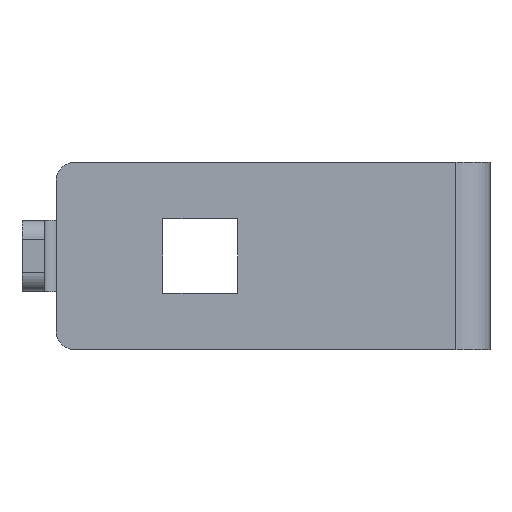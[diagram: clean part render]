
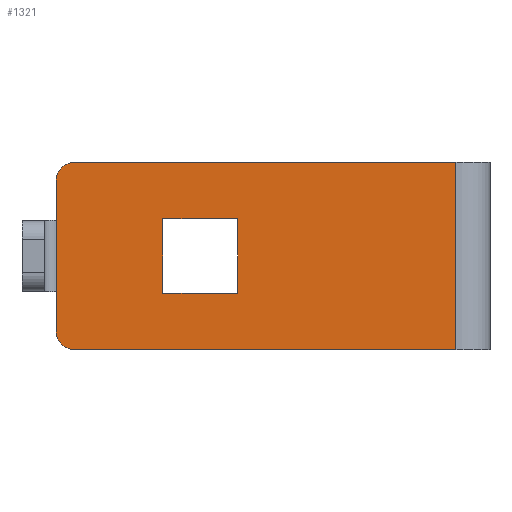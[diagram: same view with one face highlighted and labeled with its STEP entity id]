
A CAD part, left-side view. The second image highlights one B-rep face of the part: STEP entity #1321.
In plain terms, the highlighted planar face has unit normal (-1, 0, 0).
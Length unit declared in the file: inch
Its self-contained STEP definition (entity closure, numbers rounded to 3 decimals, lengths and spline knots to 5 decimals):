
#415=DIRECTION('',(0.,1.,0.));
#416=VECTOR('',#415,1.018);
#417=CARTESIAN_POINT('',(-0.8,-0.139,0.25));
#418=LINE('',#417,#416);
#419=DIRECTION('',(0.,0.,-1.));
#420=VECTOR('',#419,0.2);
#421=CARTESIAN_POINT('',(-0.8,0.644,0.1));
#422=LINE('',#421,#420);
#423=DIRECTION('',(0.,-1.,0.));
#424=VECTOR('',#423,0.2);
#425=CARTESIAN_POINT('',(-0.8,0.644,-0.1));
#426=LINE('',#425,#424);
#427=DIRECTION('',(0.,0.,1.));
#428=VECTOR('',#427,0.2);
#429=CARTESIAN_POINT('',(-0.8,0.444,-0.1));
#430=LINE('',#429,#428);
#431=DIRECTION('',(0.,1.,0.));
#432=VECTOR('',#431,0.2);
#433=CARTESIAN_POINT('',(-0.8,0.444,0.1));
#434=LINE('',#433,#432);
#435=CARTESIAN_POINT('',(-0.8,0.879,-0.2));
#436=DIRECTION('',(-1.,0.,0.));
#437=DIRECTION('',(0.,1.,0.));
#438=AXIS2_PLACEMENT_3D('',#435,#436,#437);
#440=DIRECTION('',(0.,0.,1.));
#441=VECTOR('',#440,0.105);
#442=CARTESIAN_POINT('',(-0.8,0.929,-0.2));
#443=LINE('',#442,#441);
#444=DIRECTION('',(0.,0.,1.));
#445=VECTOR('',#444,0.105);
#446=CARTESIAN_POINT('',(-0.8,0.929,0.095));
#447=LINE('',#446,#445);
#448=CARTESIAN_POINT('',(-0.8,0.879,0.2));
#449=DIRECTION('',(-1.,0.,0.));
#450=DIRECTION('',(0.,0.,1.));
#451=AXIS2_PLACEMENT_3D('',#448,#449,#450);
#453=DIRECTION('',(0.,0.,1.));
#454=VECTOR('',#453,0.5);
#455=CARTESIAN_POINT('',(-0.8,-0.139,-0.25));
#456=LINE('',#455,#454);
#619=DIRECTION('',(0.,0.,-1.));
#620=VECTOR('',#619,0.19);
#621=CARTESIAN_POINT('',(-0.8,0.929,0.095));
#622=LINE('',#621,#620);
#627=DIRECTION('',(0.,1.,0.));
#628=VECTOR('',#627,1.018);
#629=CARTESIAN_POINT('',(-0.8,-0.139,-0.25));
#630=LINE('',#629,#628);
#787=CARTESIAN_POINT('',(-0.8,-0.139,-0.25));
#788=VERTEX_POINT('',#787);
#789=CARTESIAN_POINT('',(-0.8,-0.139,0.25));
#790=VERTEX_POINT('',#789);
#799=CARTESIAN_POINT('',(-0.8,0.644,0.1));
#800=CARTESIAN_POINT('',(-0.8,0.644,-0.1));
#801=VERTEX_POINT('',#799);
#802=VERTEX_POINT('',#800);
#803=CARTESIAN_POINT('',(-0.8,0.444,-0.1));
#804=VERTEX_POINT('',#803);
#805=CARTESIAN_POINT('',(-0.8,0.444,0.1));
#806=VERTEX_POINT('',#805);
#824=CARTESIAN_POINT('',(-0.8,0.929,-0.095));
#826=VERTEX_POINT('',#824);
#828=CARTESIAN_POINT('',(-0.8,0.929,0.095));
#830=VERTEX_POINT('',#828);
#851=CARTESIAN_POINT('',(-0.8,0.929,-0.2));
#852=VERTEX_POINT('',#851);
#853=CARTESIAN_POINT('',(-0.8,0.879,-0.25));
#854=VERTEX_POINT('',#853);
#855=CARTESIAN_POINT('',(-0.8,0.879,0.25));
#856=CARTESIAN_POINT('',(-0.8,0.929,0.2));
#857=VERTEX_POINT('',#855);
#858=VERTEX_POINT('',#856);
#1291=CARTESIAN_POINT('',(-0.8,-0.139,-0.25));
#1292=DIRECTION('',(1.,0.,0.));
#1293=DIRECTION('',(0.,1.,0.));
#1294=AXIS2_PLACEMENT_3D('',#1291,#1292,#1293);
#1295=PLANE('',#1294);
#1297=ORIENTED_EDGE('',*,*,#1296,.F.);
#1299=ORIENTED_EDGE('',*,*,#1298,.T.);
#1301=ORIENTED_EDGE('',*,*,#1300,.F.);
#1303=ORIENTED_EDGE('',*,*,#1302,.T.);
#1304=ORIENTED_EDGE('',*,*,#1281,.F.);
#1305=ORIENTED_EDGE('',*,*,#1271,.F.);
#1306=ORIENTED_EDGE('',*,*,#1183,.F.);
#1308=ORIENTED_EDGE('',*,*,#1307,.T.);
#1309=EDGE_LOOP('',(#1297,#1299,#1301,#1303,#1304,#1305,#1306,#1308));
#1310=FACE_OUTER_BOUND('',#1309,.F.);
#1312=ORIENTED_EDGE('',*,*,#1311,.T.);
#1314=ORIENTED_EDGE('',*,*,#1313,.T.);
#1316=ORIENTED_EDGE('',*,*,#1315,.T.);
#1318=ORIENTED_EDGE('',*,*,#1317,.T.);
#1319=EDGE_LOOP('',(#1312,#1314,#1316,#1318));
#1320=FACE_BOUND('',#1319,.F.);
#439=CIRCLE('',#438,0.05);
#452=CIRCLE('',#451,0.05);
#1183=EDGE_CURVE('',#788,#790,#456,.T.);
#1271=EDGE_CURVE('',#790,#857,#418,.T.);
#1281=EDGE_CURVE('',#857,#858,#452,.T.);
#1296=EDGE_CURVE('',#852,#854,#439,.T.);
#1298=EDGE_CURVE('',#852,#826,#443,.T.);
#1300=EDGE_CURVE('',#830,#826,#622,.T.);
#1302=EDGE_CURVE('',#830,#858,#447,.T.);
#1307=EDGE_CURVE('',#788,#854,#630,.T.);
#1311=EDGE_CURVE('',#801,#802,#422,.T.);
#1313=EDGE_CURVE('',#802,#804,#426,.T.);
#1315=EDGE_CURVE('',#804,#806,#430,.T.);
#1317=EDGE_CURVE('',#806,#801,#434,.T.);
#1321=ADVANCED_FACE('',(#1310,#1320),#1295,.F.);
